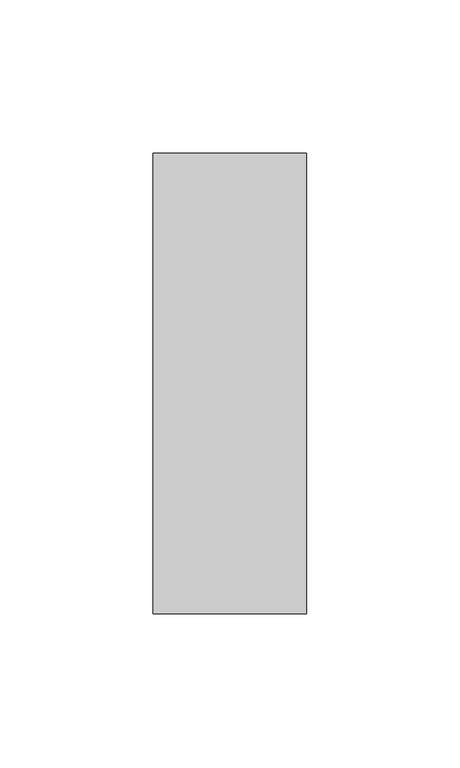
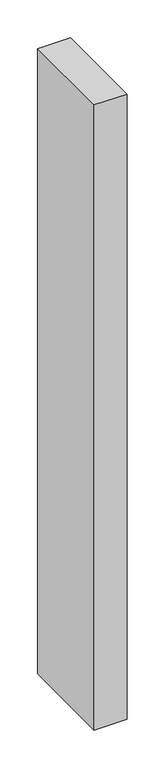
"""IFC4 building model written with IfcOpenShell, lengths in millimetres: member geometry, Прямоугольный импост : 50 x 150 мм."""

from ifc_helpers import new_model, si_unit, frame, origin, place, context, project, spatial, polyline, outline, extrude, source, transform, mapped, element, save


def member_e2cb32d1(model_context):
    return source(origin(), model_context, "Body", "SweptSolid", [
        extrude(outline(polyline([(25.0, 75.0), (25.0, -75.0), (-25.0, -75.0), (-25.0, 75.0), (25.0, 75.0)])), frame((0.0, 0.0, -1009.8115144), z_axis=(0.0, 0.0, 1.0), x_axis=(1.0, 0.0, 0.0)), (0.0, 0.0, 1.0), 1009.8115144),
    ])


if __name__ == "__main__":
    model = new_model("IFC4")
    model_context = context("Model", 3, world=origin())
    ifc_project = project(units=[si_unit("LENGTHUNIT", "METRE", prefix="MILLI")], contexts=[model_context])
    site = spatial("IfcSite", under=ifc_project)
    building = spatial("IfcBuilding", under=site)
    placement = place(None, origin())
    member_shape = member_e2cb32d1(model_context)
    element("IfcMember", 1, ObjectType="Прямоугольный импост : 50 x 150 мм", at=placement, inside=building, context=model_context, shape_type="MappedRepresentation", body=[
        mapped(member_shape, transform((0.0, 0.0, 0.0), x_axis=(1.0, 0.0, 0.0), y_axis=(0.0, 1.0, 0.0), z_axis=(0.0, 0.0, 1.0))),
    ])
    save(model, "model.ifc")
